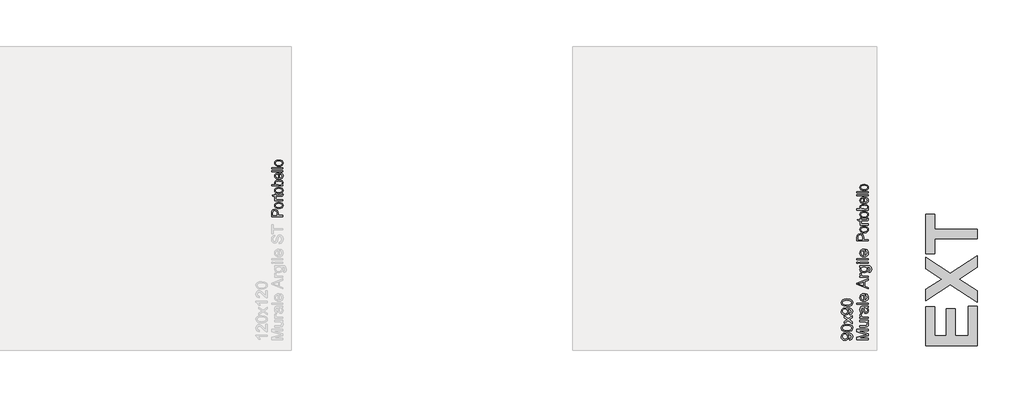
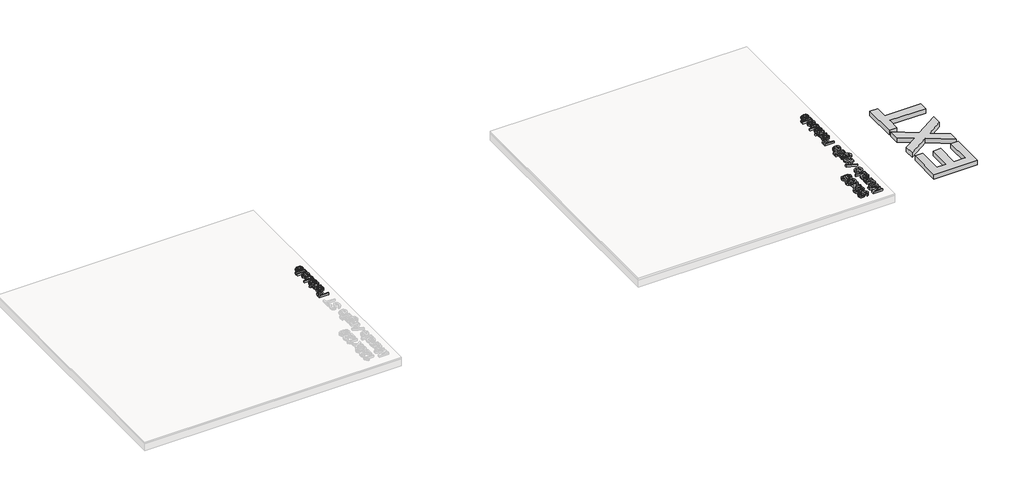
# One storey, part 10 of 21: 5 proxies.
"""IFC4 building model written with IfcOpenShell, lengths in millimetres."""

from ifc_helpers import new_model, si_unit, frame, origin, origin_with_axes, place, context, project, spatial, polyline, outline, extrude, element, save

model = new_model("IFC4")

# Units and contexts
model_context = context("Model", 3, world=origin())
ifc_project = project(units=[si_unit("LENGTHUNIT", "METRE", prefix="MILLI")], contexts=[model_context])

# Site, building, storey
site = spatial("IfcSite", under=ifc_project)
building = spatial("IfcBuilding", under=site)
storey = spatial("IfcBuildingStorey", under=building, Name="PORTOBELLO - SHOWROOM", Elevation=0.0)

# Proxies
placement = place(None, origin())
element("IfcBuildingElementProxy", 1, Name="10mm Arial", ObjectType="10mm Arial", at=placement, inside=storey, context=model_context, shape_type="SweptSolid", body=[
    extrude(outline(polyline([(28359.4625095, 10369.8696803), (28259.0061994, 10369.8696803), (28259.0061994, 10391.4030397), (28329.8112207, 10412.0044314), (28344.6000769, 10416.1737607), (28328.5849474, 10420.6619211), (28259.0061994, 10440.8709053), (28259.0061994, 10462.4778412), (28359.4625095, 10462.4778412), (28359.4625095, 10449.9208024), (28271.5632382, 10449.9208024), (28359.4625095, 10424.6840975), (28359.4625095, 10407.6879494), (28271.5632382, 10382.426719), (28359.4625095, 10382.426719), (28359.4625095, 10369.8696803)])), frame((0.0, 0.0, 18.0), z_axis=(0.0, 0.0, 1.0), x_axis=(1.0, 0.0, 0.0)), (0.0, 0.0, 1.0), 20.0),
    extrude(outline(polyline([(28359.4625095, 10529.9719246), (28346.7828434, 10529.9719246), (28357.4698154, 10520.1372126), (28361.0321394, 10507.3103937), (28358.5305418, 10495.5013816), (28352.2520224, 10487.3589268), (28343.0059216, 10483.6187932), (28331.3317996, 10482.8830292), (28285.6899068, 10482.8830292), (28285.6899068, 10495.4400679), (28325.4211622, 10495.4400679), (28338.2234557, 10496.2003574), (28345.7405111, 10501.1667643), (28348.4751006, 10510.5232297), (28345.6791974, 10521.0078666), (28338.0640401, 10527.9363109), (28324.0722616, 10529.9719246), (28285.6899068, 10529.9719246), (28285.6899068, 10542.5289633), (28359.4625095, 10542.5289633), (28359.4625095, 10529.9719246)])), frame((0.0, 0.0, 18.0), z_axis=(0.0, 0.0, 1.0), x_axis=(1.0, 0.0, 0.0)), (0.0, 0.0, 1.0), 20.0),
    extrude(outline(polyline([(28359.4625095, 10559.7948916), (28285.6899068, 10559.7948916), (28285.6899068, 10570.7823006), (28296.6037393, 10570.7823006), (28286.5482981, 10578.5813989), (28284.1202769, 10586.4295481), (28287.9953006, 10599.0356378), (28299.2524897, 10594.841783), (28296.6773157, 10586.0126152), (28299.1543878, 10578.9124927), (28306.0215184, 10574.3875441), (28320.6877472, 10572.3519304), (28359.4625095, 10572.3519304), (28359.4625095, 10559.7948916)])), frame((0.0, 0.0, 18.0), z_axis=(0.0, 0.0, 1.0), x_axis=(1.0, 0.0, 0.0)), (0.0, 0.0, 1.0), 20.0),
    extrude(outline(polyline([(28350.0447305, 10653.9726824), (28358.5550673, 10641.7957884), (28361.0321394, 10628.3435701), (28359.5422173, 10617.8497362), (28355.0724511, 10610.1088858), (28348.2850282, 10605.335617), (28339.8421365, 10603.7445273), (28329.9093226, 10606.148023), (28322.6988355, 10612.4633306), (28318.5785571, 10621.2557103), (28316.6900962, 10632.1204919), (28312.3736142, 10653.899106), (28309.577711, 10653.9726824), (28300.3070847, 10650.5145916), (28296.6773157, 10636.6331777), (28299.0930741, 10623.9289861), (28307.6647246, 10617.8711959), (28306.0950948, 10605.3141572), (28293.8323616, 10610.746548), (28286.6464, 10621.684906), (28284.1202769, 10638.2518585), (28286.3520944, 10653.4699103), (28291.9561634, 10662.0660863), (28300.478763, 10665.9165845), (28311.4661719, 10666.5297212), (28327.088894, 10666.5297212), (28348.9042963, 10667.1673833), (28359.4625095, 10669.6689809), (28359.4625095, 10657.1119421), (28350.0447305, 10653.9726824)]), holes=[polyline([(28324.9306529, 10653.9726824), (28328.7811511, 10633.7146472), (28330.8167648, 10622.9111793), (28334.1277028, 10618.0183487), (28338.9592197, 10616.3015661), (28345.7527738, 10620.0416997), (28348.4751006, 10631.0168459), (28345.470731, 10643.7210375), (28338.1989302, 10651.9125432), (28328.4868455, 10653.899106), (28324.9306529, 10653.9726824)])]), frame((0.0, 0.0, 18.0), z_axis=(0.0, 0.0, 1.0), x_axis=(1.0, 0.0, 0.0)), (0.0, 0.0, 1.0), 20.0),
    extrude(outline(polyline([(28359.4625095, 10683.7956495), (28259.0061994, 10683.7956495), (28259.0061994, 10696.3526882), (28359.4625095, 10696.3526882), (28359.4625095, 10683.7956495)])), frame((0.0, 0.0, 18.0), z_axis=(0.0, 0.0, 1.0), x_axis=(1.0, 0.0, 0.0)), (0.0, 0.0, 1.0), 20.0),
    extrude(outline(polyline([(28337.4876917, 10766.8388785), (28339.0573215, 10779.1506626), (28348.3340792, 10774.7146189), (28355.2686548, 10767.6359562), (28359.5912682, 10758.07409), (28361.0321394, 10746.1884359), (28358.5458702, 10731.454762), (28351.0870628, 10720.1178651), (28339.140095, 10712.8889839), (28323.1893448, 10710.4793569), (28306.7021001, 10712.9135094), (28294.3719219, 10720.215967), (28286.6831882, 10731.3995797), (28284.1202769, 10745.4771973), (28286.6770568, 10759.1164223), (28294.3473964, 10770.0149264), (28306.6530491, 10777.1610342), (28323.1157684, 10779.5430701), (28326.5002828, 10779.4694937), (28326.5002828, 10723.0363956), (28335.8996677, 10725.2099651), (28342.8097179, 10730.2591455), (28347.0587549, 10737.5462747), (28348.4751006, 10746.4336905), (28345.8508757, 10758.7454746), (28337.4876917, 10766.8388785)]), holes=[polyline([(28313.943244, 10723.0363956), (28313.943244, 10766.9860313), (28302.5634276, 10761.9583107), (28298.1488437, 10754.637459), (28296.6773157, 10745.4281464), (28301.3739425, 10729.9648399), (28306.8645813, 10725.0996005), (28313.943244, 10723.0363956)])]), frame((0.0, 0.0, 18.0), z_axis=(0.0, 0.0, 1.0), x_axis=(1.0, 0.0, 0.0)), (0.0, 0.0, 1.0), 20.0),
    extrude(outline(polyline([(28359.4625095, 10821.2363629), (28259.0061994, 10861.3355003), (28259.0061994, 10872.0286037), (28359.4625095, 10912.1032157), (28359.4625095, 10898.8349384), (28328.0699126, 10887.3570201), (28328.0699126, 10845.9580329), (28359.4625095, 10834.4801147), (28359.4625095, 10821.2363629)]), holes=[polyline([(28315.5128738, 10850.5688206), (28315.5128738, 10882.7707579), (28290.8157292, 10873.6963354), (28271.5632382, 10866.6575265), (28288.6574882, 10860.4035326), (28315.5128738, 10850.5688206)])]), frame((0.0, 0.0, 18.0), z_axis=(0.0, 0.0, 1.0), x_axis=(1.0, 0.0, 0.0)), (0.0, 0.0, 1.0), 20.0),
    extrude(outline(polyline([(28359.4625095, 10923.9490159), (28285.6899068, 10923.9490159), (28285.6899068, 10934.9364248), (28296.6037393, 10934.9364248), (28286.5482981, 10942.7355231), (28284.1202769, 10950.5836724), (28287.9953006, 10963.1897621), (28299.2524897, 10958.9959073), (28296.6773157, 10950.1667395), (28299.1543878, 10943.0666169), (28306.0215184, 10938.5416684), (28320.6877472, 10936.5060547), (28359.4625095, 10936.5060547), (28359.4625095, 10923.9490159)])), frame((0.0, 0.0, 18.0), z_axis=(0.0, 0.0, 1.0), x_axis=(1.0, 0.0, 0.0)), (0.0, 0.0, 1.0), 20.0),
    extrude(outline(polyline([(28365.7410289, 10967.8986516), (28367.3106588, 10980.4556904), (28373.9325347, 10984.5269178), (28376.7284378, 10996.7160746), (28373.5646527, 11009.5674189), (28364.6864339, 11015.6987855), (28350.0447305, 11016.5571768), (28357.1080648, 11007.7157462), (28359.4625095, 10996.9368038), (28356.7217887, 10983.9904232), (28348.4996261, 10974.3365865), (28336.4453594, 10968.330913), (28322.2083262, 10966.3290218), (28302.7473686, 10969.9220026), (28288.9763193, 10980.3208003), (28284.1202769, 10996.3236671), (28286.8671292, 11007.5256739), (28295.1076858, 11016.5571768), (28285.6899068, 11016.5571768), (28285.6899068, 11029.1142156), (28349.3825429, 11029.1142156), (28373.7731191, 11025.6806503), (28385.1161473, 11014.803606), (28389.2854766, 10996.4708199), (28387.8170143, 10984.7875009), (28383.4116274, 10975.5873853), (28376.0570532, 10969.685945), (28365.7410289, 10967.8986516)]), holes=[polyline([(28321.3499348, 10978.8860605), (28332.867707, 10980.2257641), (28340.7863669, 10984.2448749), (28345.3756948, 10990.2873367), (28346.9054708, 10997.6970932), (28345.3848919, 11005.0516674), (28340.8231551, 11011.1247861), (28333.0056627, 11015.1990791), (28321.7178168, 11016.5571768), (28310.8315755, 11015.1592253), (28302.9926233, 11010.9653705), (28298.2561426, 11004.8033471), (28296.6773157, 10997.5008895), (28298.2316171, 10990.3302563), (28302.8945214, 10984.3184513), (28310.6169776, 10980.2441582), (28321.3499348, 10978.8860605)])]), frame((0.0, 0.0, 18.0), z_axis=(0.0, 0.0, 1.0), x_axis=(1.0, 0.0, 0.0)), (0.0, 0.0, 1.0), 20.0),
    extrude(outline(polyline([(28271.5632382, 11047.9497738), (28259.0061994, 11047.9497738), (28259.0061994, 11060.5068125), (28271.5632382, 11060.5068125), (28271.5632382, 11047.9497738)])), frame((0.0, 0.0, 18.0), z_axis=(0.0, 0.0, 1.0), x_axis=(1.0, 0.0, 0.0)), (0.0, 0.0, 1.0), 20.0),
    extrude(outline(polyline([(28359.4625095, 11047.9497738), (28285.6899068, 11047.9497738), (28285.6899068, 11060.5068125), (28359.4625095, 11060.5068125), (28359.4625095, 11047.9497738)])), frame((0.0, 0.0, 18.0), z_axis=(0.0, 0.0, 1.0), x_axis=(1.0, 0.0, 0.0)), (0.0, 0.0, 1.0), 20.0),
    extrude(outline(polyline([(28359.4625095, 11079.3423707), (28259.0061994, 11079.3423707), (28259.0061994, 11091.8994095), (28359.4625095, 11091.8994095), (28359.4625095, 11079.3423707)])), frame((0.0, 0.0, 18.0), z_axis=(0.0, 0.0, 1.0), x_axis=(1.0, 0.0, 0.0)), (0.0, 0.0, 1.0), 20.0),
    extrude(outline(polyline([(28337.4876917, 11162.3855997), (28339.0573215, 11174.6973838), (28348.3340792, 11170.2613401), (28355.2686548, 11163.1826774), (28359.5912682, 11153.6208112), (28361.0321394, 11141.7351571), (28358.5458702, 11127.0014832), (28351.0870628, 11115.6645863), (28339.140095, 11108.4357051), (28323.1893448, 11106.0260781), (28306.7021001, 11108.4602306), (28294.3719219, 11115.7626882), (28286.6831882, 11126.9463009), (28284.1202769, 11141.0239185), (28286.6770568, 11154.6631435), (28294.3473964, 11165.5616476), (28306.6530491, 11172.7077554), (28323.1157684, 11175.0897913), (28326.5002828, 11175.0162149), (28326.5002828, 11118.5831168), (28335.8996677, 11120.7566863), (28342.8097179, 11125.8058667), (28347.0587549, 11133.0929959), (28348.4751006, 11141.9804117), (28345.8508757, 11154.2921958), (28337.4876917, 11162.3855997)]), holes=[polyline([(28313.943244, 11118.5831168), (28313.943244, 11162.5327525), (28302.5634276, 11157.5050319), (28298.1488437, 11150.1841802), (28296.6773157, 11140.9748676), (28301.3739425, 11125.5115611), (28306.8645813, 11120.6463217), (28313.943244, 11118.5831168)])]), frame((0.0, 0.0, 18.0), z_axis=(0.0, 0.0, 1.0), x_axis=(1.0, 0.0, 0.0)), (0.0, 0.0, 1.0), 20.0),
])
element("IfcBuildingElementProxy", 2, Name="10mm Arial", ObjectType="10mm Arial", at=placement, inside=storey, context=model_context, shape_type="SweptSolid", body=[
    extrude(outline(polyline([(28194.348432, 10366.7304206), (28192.7788021, 10379.2874593), (28204.7594925, 10384.9283166), (28208.4751006, 10395.6214199), (28206.0838676, 10405.7872257), (28199.6949837, 10412.6788818), (28188.7811511, 10416.7868974), (28174.2130241, 10418.6017819), (28171.7604775, 10418.5282055), (28181.2763584, 10408.485027), (28184.9306529, 10394.7139777), (28182.6988355, 10383.2636506), (28176.0033832, 10373.7324412), (28165.6597677, 10367.3037033), (28152.4834609, 10365.1607907), (28138.8718271, 10367.4079366), (28128.2032493, 10374.1493741), (28121.3054619, 10384.2753261), (28119.0061994, 10396.676015), (28124.2546492, 10414.5673427), (28139.2151837, 10426.8791268), (28167.3213681, 10431.0852443), (28197.8187855, 10426.8913895), (28207.8098473, 10421.6766622), (28215.0969765, 10414.4201899), (28219.5483487, 10405.4346721), (28221.0321394, 10395.0328087), (28219.2816342, 10384.2967858), (28214.0301187, 10375.7312667), (28205.6086867, 10369.7409216), (28194.348432, 10366.7304206)]), holes=[polyline([(28152.1891553, 10418.5282055), (28143.6788185, 10417.1731735), (28137.130519, 10413.1080774), (28132.9550584, 10406.7989012), (28131.5632382, 10398.7116287), (28133.0623573, 10390.3239192), (28137.5597147, 10383.6039414), (28144.4421737, 10379.1893575), (28153.0965976, 10377.7178295), (28160.855842, 10379.1096497), (28167.0147998, 10383.2851103), (28171.0339106, 10389.8395412), (28172.3736142, 10398.3682722), (28167.0147998, 10412.85056), (28160.6289815, 10417.1087941), (28152.1891553, 10418.5282055)])]), frame((0.0, 0.0, 18.0), z_axis=(0.0, 0.0, 1.0), x_axis=(1.0, 0.0, 0.0)), (0.0, 0.0, 1.0), 20.0),
    extrude(outline(polyline([(28170.0436948, 10442.0726532), (28141.1404328, 10445.7637359), (28124.4753784, 10456.7266193), (28119.0061994, 10475.0348799), (28122.2435609, 10489.7011088), (28131.5755009, 10499.8301264), (28146.4379335, 10505.7162383), (28170.0436948, 10507.9971067), (28198.8243296, 10504.3428122), (28215.5261722, 10493.416717), (28219.6556476, 10485.1853573), (28221.0321394, 10475.0348799), (28218.6409064, 10461.9873319), (28211.4672075, 10452.0790434), (28194.4771907, 10444.5742507), (28170.0436948, 10442.0726532)]), holes=[polyline([(28170.0191694, 10454.6296919), (28189.7713668, 10456.1012199), (28201.2032998, 10460.5158039), (28206.6571504, 10467.0886289), (28208.4751006, 10475.0348799), (28206.6510191, 10482.981131), (28201.1787744, 10489.553956), (28189.74071, 10493.96854), (28170.0191694, 10495.4400679), (28150.711496, 10494.0175909), (28139.1906582, 10489.7501598), (28133.4700932, 10483.1895975), (28131.5632382, 10474.8877271), (28133.2432326, 10467.0273152), (28138.2832159, 10460.7120076), (28150.5214236, 10456.1502709), (28170.0191694, 10454.6296919)])]), frame((0.0, 0.0, 18.0), z_axis=(0.0, 0.0, 1.0), x_axis=(1.0, 0.0, 0.0)), (0.0, 0.0, 1.0), 20.0),
    extrude(outline(polyline([(28219.4625095, 10514.2756261), (28182.355479, 10541.1064863), (28145.6899068, 10515.8452559), (28145.6899068, 10530.9038923), (28163.372768, 10543.0930491), (28171.6869011, 10548.8074827), (28164.8688214, 10553.7616269), (28145.6899068, 10567.6430409), (28145.6899068, 10582.7507281), (28182.3800044, 10556.2141735), (28219.4625095, 10581.7697095), (28219.4625095, 10566.6865477), (28197.1443352, 10551.2845548), (28193.0485823, 10548.4886516), (28219.4625095, 10529.3833134), (28219.4625095, 10514.2756261)])), frame((0.0, 0.0, 18.0), z_axis=(0.0, 0.0, 1.0), x_axis=(1.0, 0.0, 0.0)), (0.0, 0.0, 1.0), 20.0),
    extrude(outline(polyline([(28194.348432, 10591.1874886), (28192.7788021, 10603.7445273), (28204.7594925, 10609.3853846), (28208.4751006, 10620.0784879), (28206.0838676, 10630.2442937), (28199.6949837, 10637.1359498), (28188.7811511, 10641.2439654), (28174.2130241, 10643.0588499), (28171.7604775, 10642.9852735), (28181.2763584, 10632.942095), (28184.9306529, 10619.1710457), (28182.6988355, 10607.7207186), (28176.0033832, 10598.1895092), (28165.6597677, 10591.7607713), (28152.4834609, 10589.6178587), (28138.8718271, 10591.8650046), (28128.2032493, 10598.6064421), (28121.3054619, 10608.732394), (28119.0061994, 10621.133083), (28124.2546492, 10639.0244107), (28139.2151837, 10651.3361948), (28167.3213681, 10655.5423122), (28197.8187855, 10651.3484575), (28207.8098473, 10646.1337302), (28215.0969765, 10638.8772579), (28219.5483487, 10629.8917401), (28221.0321394, 10619.4898767), (28219.2816342, 10608.7538538), (28214.0301187, 10600.1883347), (28205.6086867, 10594.1979896), (28194.348432, 10591.1874886)]), holes=[polyline([(28152.1891553, 10642.9852735), (28143.6788185, 10641.6302415), (28137.130519, 10637.5651454), (28132.9550584, 10631.2559692), (28131.5632382, 10623.1686967), (28133.0623573, 10614.7809872), (28137.5597147, 10608.0610094), (28144.4421737, 10603.6464255), (28153.0965976, 10602.1748975), (28160.855842, 10603.5667177), (28167.0147998, 10607.7421783), (28171.0339106, 10614.2966092), (28172.3736142, 10622.8253401), (28167.0147998, 10637.307628), (28160.6289815, 10641.5658621), (28152.1891553, 10642.9852735)])]), frame((0.0, 0.0, 18.0), z_axis=(0.0, 0.0, 1.0), x_axis=(1.0, 0.0, 0.0)), (0.0, 0.0, 1.0), 20.0),
    extrude(outline(polyline([(28170.0436948, 10666.5297212), (28141.1404328, 10670.2208039), (28124.4753784, 10681.1836873), (28119.0061994, 10699.4919479), (28122.2435609, 10714.1581768), (28131.5755009, 10724.2871944), (28146.4379335, 10730.1733063), (28170.0436948, 10732.4541747), (28198.8243296, 10728.7998802), (28215.5261722, 10717.873785), (28219.6556476, 10709.6424253), (28221.0321394, 10699.4919479), (28218.6409064, 10686.4443998), (28211.4672075, 10676.5361114), (28194.4771907, 10669.0313187), (28170.0436948, 10666.5297212)]), holes=[polyline([(28170.0191694, 10679.0867599), (28189.7713668, 10680.5582879), (28201.2032998, 10684.9728719), (28206.6571504, 10691.5456968), (28208.4751006, 10699.4919479), (28206.6510191, 10707.438199), (28201.1787744, 10714.011024), (28189.74071, 10718.425608), (28170.0191694, 10719.8971359), (28150.711496, 10718.4746589), (28139.1906582, 10714.2072277), (28133.4700932, 10707.6466655), (28131.5632382, 10699.3447951), (28133.2432326, 10691.4843832), (28138.2832159, 10685.1690756), (28150.5214236, 10680.6073389), (28170.0191694, 10679.0867599)])]), frame((0.0, 0.0, 18.0), z_axis=(0.0, 0.0, 1.0), x_axis=(1.0, 0.0, 0.0)), (0.0, 0.0, 1.0), 20.0),
])
element("IfcBuildingElementProxy", 3, Name="10mm Arial Narrow", ObjectType="10mm Arial Narrow", at=placement, inside=storey, context=model_context, shape_type="SweptSolid", body=[
    extrude(outline(polyline([(28359.4625095, 11249.588476), (28258.7439058, 11249.588476), (28258.7439058, 11280.8853607), (28260.6222265, 11297.1810622), (28270.1026697, 11308.6540483), (28287.1217785, 11312.9437267), (28299.197604, 11311.1574183), (28308.8239978, 11305.7984931), (28315.1252562, 11296.0547043), (28317.2256757, 11281.1138051), (28317.2256757, 11259.3354376), (28359.4625095, 11259.3354376), (28359.4625095, 11249.588476)]), holes=[polyline([(28305.8542204, 11259.3354376), (28305.8542204, 11282.3067926), (28301.3234062, 11298.170988), (28287.6548155, 11303.1967651), (28277.4890391, 11300.7219506), (28271.6890892, 11294.7443218), (28270.115361, 11282.0783482), (28270.115361, 11259.3354376), (28305.8542204, 11259.3354376)])]), frame((0.0, 0.0, 18.0), z_axis=(0.0, 0.0, 1.0), x_axis=(1.0, 0.0, 0.0)), (0.0, 0.0, 1.0), 20.0),
    extrude(outline(polyline([(28322.9114033, 11321.0661948), (28306.3206278, 11323.0206637), (28294.368543, 11328.8840703), (28287.1439884, 11337.742637), (28284.7358035, 11348.6825861), (28287.1439884, 11359.4956217), (28294.368543, 11368.3795711), (28306.1302574, 11374.3191259), (28322.149922, 11376.2989775), (28339.3118085, 11374.3540271), (28351.4542637, 11368.5191761), (28358.6788183, 11359.6701279), (28361.0870031, 11348.6825861), (28358.6724726, 11337.821958), (28351.428881, 11328.9475271), (28339.4704505, 11323.0365278), (28322.9114033, 11321.0661948)]), holes=[polyline([(28322.8860206, 11330.8131564), (28335.437772, 11332.1171933), (28344.3090301, 11336.0293039), (28349.5822886, 11341.8705006), (28351.3400415, 11348.961796), (28349.5664244, 11355.6818691), (28344.2455733, 11361.3739424), (28335.358451, 11365.2574975), (28322.8860206, 11366.5520158), (28310.3723433, 11365.247979), (28301.5137766, 11361.3358684), (28296.240518, 11355.4946716), (28294.4827652, 11348.4033763), (28296.2500365, 11341.6357105), (28301.5518506, 11335.9531557), (28310.4199359, 11332.0981563), (28322.8860206, 11330.8131564)])]), frame((0.0, 0.0, 18.0), z_axis=(0.0, 0.0, 1.0), x_axis=(1.0, 0.0, 0.0)), (0.0, 0.0, 1.0), 20.0),
    extrude(outline(polyline([(28351.3400415, 11447.7766963), (28361.0870031, 11449.4011899), (28361.0870031, 11442.0402032), (28358.9675466, 11433.7654389), (28353.1675968, 11429.4503777), (28338.5217716, 11428.282773), (28296.1072588, 11428.282773), (28296.1072588, 11420.1603049), (28292.8582716, 11420.1603049), (28297.7317524, 11418.5358113), (28296.1072588, 11410.9717629), (28298.429777, 11404.8926033), (28304.9150601, 11401.0217396), (28320.3223666, 11399.041888), (28359.4625095, 11399.041888), (28359.4625095, 11389.2949264), (28286.3602971, 11389.2949264), (28286.3602971, 11399.041888), (28296.0564934, 11399.041888), (28286.9694822, 11405.2860353), (28284.7358035, 11411.6824789), (28286.3602971, 11420.1603049), (28286.3602971, 11428.282773), (28270.115361, 11428.282773), (28261.992893, 11438.0297346), (28286.3602971, 11438.0297346), (28286.3602971, 11447.7766963), (28296.1072588, 11447.7766963), (28296.1072588, 11438.0297346), (28340.7554503, 11438.0297346), (28348.7510048, 11438.8927468), (28351.3400415, 11443.5124006), (28351.3400415, 11447.7766963)])), frame((0.0, 0.0, 18.0), z_axis=(0.0, 0.0, 1.0), x_axis=(1.0, 0.0, 0.0)), (0.0, 0.0, 1.0), 20.0),
    extrude(outline(polyline([(28322.9114033, 11454.2746707), (28306.3206278, 11456.2291396), (28294.368543, 11462.0925462), (28287.1439884, 11470.9511129), (28284.7358035, 11481.8910621), (28287.1439884, 11492.7040976), (28294.368543, 11501.5880471), (28306.1302574, 11507.5276018), (28322.149922, 11509.5074534), (28339.3118085, 11507.5625031), (28351.4542637, 11501.727652), (28358.6788183, 11492.8786038), (28361.0870031, 11481.8910621), (28358.6724726, 11471.0304339), (28351.428881, 11462.156003), (28339.4704505, 11456.2450038), (28322.9114033, 11454.2746707)]), holes=[polyline([(28322.8860206, 11464.0216324), (28335.437772, 11465.3256692), (28344.3090301, 11469.2377798), (28349.5822886, 11475.0789766), (28351.3400415, 11482.1702719), (28349.5664244, 11488.8903451), (28344.2455733, 11494.5824184), (28335.358451, 11498.4659734), (28322.8860206, 11499.7604918), (28310.3723433, 11498.4564549), (28301.5137766, 11494.5443443), (28296.240518, 11488.7031476), (28294.4827652, 11481.6118522), (28296.2500365, 11474.8441865), (28301.5518506, 11469.1616317), (28310.4199359, 11465.3066322), (28322.8860206, 11464.0216324)])]), frame((0.0, 0.0, 18.0), z_axis=(0.0, 0.0, 1.0), x_axis=(1.0, 0.0, 0.0)), (0.0, 0.0, 1.0), 20.0),
    extrude(outline(polyline([(28359.4625095, 11532.2503639), (28359.4625095, 11522.5034023), (28258.7439058, 11522.5034023), (28258.7439058, 11532.2503639), (28294.1527899, 11532.2503639), (28287.0710131, 11539.6494247), (28284.7358035, 11548.850658), (28288.9366425, 11561.7323847), (28301.6660729, 11571.0097661), (28322.3529837, 11574.4871978), (28338.8073271, 11572.5549388), (28351.0100662, 11566.7581618), (28358.5677689, 11558.3850394), (28361.0870031, 11548.7237444), (28358.4725837, 11539.3829062), (28350.7054737, 11532.2503639), (28359.4625095, 11532.2503639)]), holes=[polyline([(28322.3529837, 11532.2503639), (28339.6005369, 11534.3317464), (28348.33219, 11540.2205357), (28351.3400415, 11548.672979), (28349.5505602, 11554.6157066), (28344.1821165, 11559.8540639), (28322.7591071, 11564.7402361), (28301.3234062, 11560.0317429), (28296.1929254, 11554.7870399), (28294.4827652, 11548.4699173), (28296.2722464, 11542.4922885), (28301.6406901, 11537.1999929), (28322.3529837, 11532.2503639)])]), frame((0.0, 0.0, 18.0), z_axis=(0.0, 0.0, 1.0), x_axis=(1.0, 0.0, 0.0)), (0.0, 0.0, 1.0), 20.0),
    extrude(outline(polyline([(28336.719599, 11626.4709933), (28338.3440926, 11636.2179549), (28348.2306592, 11632.5184245), (28355.3505101, 11626.6994377), (28359.6528799, 11618.9957844), (28361.0870031, 11609.6422548), (28358.6724726, 11598.0487008), (28351.428881, 11588.9045785), (28339.6227468, 11582.9650238), (28323.5205884, 11580.9851722), (28306.8536647, 11582.9745423), (28294.6731355, 11588.9426526), (28287.2201365, 11597.9566884), (28284.7358035, 11609.0838351), (28287.1344699, 11619.7667843), (28294.3304689, 11628.5143016), (28306.0699735, 11634.3491527), (28322.0991565, 11636.294103), (28325.3481437, 11636.2179549), (28325.3481437, 11590.7321339), (28344.7913016, 11596.7351454), (28349.7028565, 11602.6651816), (28351.3400415, 11609.7691683), (28347.6849309, 11619.9476361), (28336.719599, 11626.4709933)]), holes=[polyline([(28315.6011821, 11591.3920844), (28315.6011821, 11626.4709933), (28301.3360976, 11622.2066975), (28296.1960983, 11616.381365), (28294.4827652, 11609.1599832), (28300.1938755, 11596.9508985), (28315.6011821, 11591.3920844)])]), frame((0.0, 0.0, 18.0), z_axis=(0.0, 0.0, 1.0), x_axis=(1.0, 0.0, 0.0)), (0.0, 0.0, 1.0), 20.0),
    extrude(outline(polyline([(28359.4625095, 11649.2139038), (28258.7439058, 11649.2139038), (28258.7439058, 11658.9608654), (28359.4625095, 11658.9608654), (28359.4625095, 11649.2139038)])), frame((0.0, 0.0, 18.0), z_axis=(0.0, 0.0, 1.0), x_axis=(1.0, 0.0, 0.0)), (0.0, 0.0, 1.0), 20.0),
    extrude(outline(polyline([(28359.4625095, 11675.2058015), (28258.7439058, 11675.2058015), (28258.7439058, 11684.9527632), (28359.4625095, 11684.9527632), (28359.4625095, 11675.2058015)])), frame((0.0, 0.0, 18.0), z_axis=(0.0, 0.0, 1.0), x_axis=(1.0, 0.0, 0.0)), (0.0, 0.0, 1.0), 20.0),
    extrude(outline(polyline([(28322.9114033, 11696.3242184), (28306.3206278, 11698.2786873), (28294.368543, 11704.1420939), (28287.1439884, 11713.0006606), (28284.7358035, 11723.9406098), (28287.1439884, 11734.7536454), (28294.368543, 11743.6375948), (28306.1302574, 11749.5771496), (28322.149922, 11751.5570011), (28339.3118085, 11749.6120508), (28351.4542637, 11743.7771997), (28358.6788183, 11734.9281515), (28361.0870031, 11723.9406098), (28358.6724726, 11713.0799816), (28351.428881, 11704.2055507), (28339.4704505, 11698.2945515), (28322.9114033, 11696.3242184)]), holes=[polyline([(28322.8860206, 11706.0711801), (28335.437772, 11707.375217), (28344.3090301, 11711.2873275), (28349.5822886, 11717.1285243), (28351.3400415, 11724.2198196), (28349.5664244, 11730.9398928), (28344.2455733, 11736.6319661), (28335.358451, 11740.5155211), (28322.8860206, 11741.8100395), (28310.3723433, 11740.5060026), (28301.5137766, 11736.593892), (28296.240518, 11730.7526953), (28294.4827652, 11723.6614), (28296.2500365, 11716.8937342), (28301.5518506, 11711.2111794), (28310.4199359, 11707.3561799), (28322.8860206, 11706.0711801)])]), frame((0.0, 0.0, 18.0), z_axis=(0.0, 0.0, 1.0), x_axis=(1.0, 0.0, 0.0)), (0.0, 0.0, 1.0), 20.0),
])
element("IfcBuildingElementProxy", 4, Name="10mm Arial Narrow", ObjectType="10mm Arial Narrow", at=placement, inside=storey, context=model_context, shape_type="SweptSolid", body=[
    extrude(outline(polyline([(23159.4374935, 11464.588476), (23058.7188897, 11464.588476), (23058.7188897, 11495.8853607), (23060.5972104, 11512.1810622), (23070.0776536, 11523.6540483), (23087.0967624, 11527.9437267), (23099.172588, 11526.1574183), (23108.7989817, 11520.7984931), (23115.1002401, 11511.0547043), (23117.2006596, 11496.1138051), (23117.2006596, 11474.3354376), (23159.4374935, 11474.3354376), (23159.4374935, 11464.588476)]), holes=[polyline([(23105.8292044, 11474.3354376), (23105.8292044, 11497.3067926), (23101.2983902, 11513.170988), (23087.6297994, 11518.1967651), (23077.464023, 11515.7219506), (23071.6640731, 11509.7443218), (23070.090345, 11497.0783482), (23070.090345, 11474.3354376), (23105.8292044, 11474.3354376)])]), frame((0.0, 0.0, 17.0), z_axis=(0.0, 0.0, 1.0), x_axis=(1.0, 0.0, 0.0)), (0.0, 0.0, 1.0), 20.0),
    extrude(outline(polyline([(23122.8863873, 11536.0661948), (23106.2956117, 11538.0206637), (23094.3435269, 11543.8840703), (23087.1189723, 11552.742637), (23084.7107874, 11563.6825861), (23087.1189723, 11574.4956217), (23094.3435269, 11583.3795711), (23106.1052414, 11589.3191259), (23122.1249059, 11591.2989775), (23139.2867925, 11589.3540271), (23151.4292476, 11583.5191761), (23158.6538022, 11574.6701279), (23161.0619871, 11563.6825861), (23158.6474565, 11552.821958), (23151.4038649, 11543.9475271), (23139.4454344, 11538.0365278), (23122.8863873, 11536.0661948)]), holes=[polyline([(23122.8610045, 11545.8131564), (23135.4127559, 11547.1171933), (23144.284014, 11551.0293039), (23149.5572726, 11556.8705006), (23151.3150254, 11563.961796), (23149.5414084, 11570.6818691), (23144.2205572, 11576.3739424), (23135.333435, 11580.2574975), (23122.8610045, 11581.5520158), (23110.3473272, 11580.247979), (23101.4887605, 11576.3358684), (23096.2155019, 11570.4946716), (23094.4577491, 11563.4033763), (23096.2250205, 11556.6357105), (23101.5268346, 11550.9531557), (23110.3949198, 11547.0981563), (23122.8610045, 11545.8131564)])]), frame((0.0, 0.0, 17.0), z_axis=(0.0, 0.0, 1.0), x_axis=(1.0, 0.0, 0.0)), (0.0, 0.0, 1.0), 20.0),
    extrude(outline(polyline([(23151.3150254, 11662.7766963), (23161.0619871, 11664.4011899), (23161.0619871, 11657.0402032), (23158.9425306, 11648.7654389), (23153.1425807, 11644.4503777), (23138.4967555, 11643.282773), (23096.0822427, 11643.282773), (23096.0822427, 11635.1603049), (23092.8332555, 11635.1603049), (23097.7067363, 11633.5358113), (23096.0822427, 11625.9717629), (23098.4047609, 11619.8926033), (23104.890044, 11616.0217396), (23120.2973506, 11614.041888), (23159.4374935, 11614.041888), (23159.4374935, 11604.2949264), (23086.335281, 11604.2949264), (23086.335281, 11614.041888), (23096.0314773, 11614.041888), (23086.9444662, 11620.2860353), (23084.7107874, 11626.6824789), (23086.335281, 11635.1603049), (23086.335281, 11643.282773), (23070.090345, 11643.282773), (23061.9678769, 11653.0297346), (23086.335281, 11653.0297346), (23086.335281, 11662.7766963), (23096.0822427, 11662.7766963), (23096.0822427, 11653.0297346), (23140.7304342, 11653.0297346), (23148.7259887, 11653.8927468), (23151.3150254, 11658.5124006), (23151.3150254, 11662.7766963)])), frame((0.0, 0.0, 17.0), z_axis=(0.0, 0.0, 1.0), x_axis=(1.0, 0.0, 0.0)), (0.0, 0.0, 1.0), 20.0),
    extrude(outline(polyline([(23122.8863873, 11669.2746707), (23106.2956117, 11671.2291396), (23094.3435269, 11677.0925462), (23087.1189723, 11685.9511129), (23084.7107874, 11696.8910621), (23087.1189723, 11707.7040976), (23094.3435269, 11716.5880471), (23106.1052414, 11722.5276018), (23122.1249059, 11724.5074534), (23139.2867925, 11722.5625031), (23151.4292476, 11716.727652), (23158.6538022, 11707.8786038), (23161.0619871, 11696.8910621), (23158.6474565, 11686.0304339), (23151.4038649, 11677.156003), (23139.4454344, 11671.2450038), (23122.8863873, 11669.2746707)]), holes=[polyline([(23122.8610045, 11679.0216324), (23135.4127559, 11680.3256692), (23144.284014, 11684.2377798), (23149.5572726, 11690.0789766), (23151.3150254, 11697.1702719), (23149.5414084, 11703.8903451), (23144.2205572, 11709.5824184), (23135.333435, 11713.4659734), (23122.8610045, 11714.7604918), (23110.3473272, 11713.4564549), (23101.4887605, 11709.5443443), (23096.2155019, 11703.7031476), (23094.4577491, 11696.6118522), (23096.2250205, 11689.8441865), (23101.5268346, 11684.1616317), (23110.3949198, 11680.3066322), (23122.8610045, 11679.0216324)])]), frame((0.0, 0.0, 17.0), z_axis=(0.0, 0.0, 1.0), x_axis=(1.0, 0.0, 0.0)), (0.0, 0.0, 1.0), 20.0),
    extrude(outline(polyline([(23159.4374935, 11747.2503639), (23159.4374935, 11737.5034023), (23058.7188897, 11737.5034023), (23058.7188897, 11747.2503639), (23094.1277738, 11747.2503639), (23087.045997, 11754.6494247), (23084.7107874, 11763.850658), (23088.9116264, 11776.7323847), (23101.6410568, 11786.0097661), (23122.3279676, 11789.4871978), (23138.782311, 11787.5549388), (23150.9850501, 11781.7581618), (23158.5427528, 11773.3850394), (23161.0619871, 11763.7237444), (23158.4475677, 11754.3829062), (23150.6804576, 11747.2503639), (23159.4374935, 11747.2503639)]), holes=[polyline([(23122.3279676, 11747.2503639), (23139.5755208, 11749.3317464), (23148.307174, 11755.2205357), (23151.3150254, 11763.672979), (23149.5255442, 11769.6157066), (23144.1571004, 11774.8540639), (23122.734091, 11779.7402361), (23101.2983902, 11775.0317429), (23096.1679094, 11769.7870399), (23094.4577491, 11763.4699173), (23096.2472303, 11757.4922885), (23101.6156741, 11752.1999929), (23122.3279676, 11747.2503639)])]), frame((0.0, 0.0, 17.0), z_axis=(0.0, 0.0, 1.0), x_axis=(1.0, 0.0, 0.0)), (0.0, 0.0, 1.0), 20.0),
    extrude(outline(polyline([(23136.6945829, 11841.4709933), (23138.3190765, 11851.2179549), (23148.2056431, 11847.5184245), (23155.325494, 11841.6994377), (23159.6278638, 11833.9957844), (23161.0619871, 11824.6422548), (23158.6474565, 11813.0487008), (23151.4038649, 11803.9045785), (23139.5977307, 11797.9650238), (23123.4955724, 11795.9851722), (23106.8286487, 11797.9745423), (23094.6481194, 11803.9426526), (23087.1951204, 11812.9566884), (23084.7107874, 11824.0838351), (23087.1094538, 11834.7667843), (23094.3054528, 11843.5143016), (23106.0449574, 11849.3491527), (23122.0741404, 11851.294103), (23125.3231277, 11851.2179549), (23125.3231277, 11805.7321339), (23144.7662855, 11811.7351454), (23149.6778404, 11817.6651816), (23151.3150254, 11824.7691683), (23147.6599148, 11834.9476361), (23136.6945829, 11841.4709933)]), holes=[polyline([(23115.576166, 11806.3920844), (23115.576166, 11841.4709933), (23101.3110815, 11837.2066975), (23096.1710822, 11831.381365), (23094.4577491, 11824.1599832), (23100.1688594, 11811.9508985), (23115.576166, 11806.3920844)])]), frame((0.0, 0.0, 17.0), z_axis=(0.0, 0.0, 1.0), x_axis=(1.0, 0.0, 0.0)), (0.0, 0.0, 1.0), 20.0),
    extrude(outline(polyline([(23159.4374935, 11864.2139038), (23058.7188897, 11864.2139038), (23058.7188897, 11873.9608654), (23159.4374935, 11873.9608654), (23159.4374935, 11864.2139038)])), frame((0.0, 0.0, 17.0), z_axis=(0.0, 0.0, 1.0), x_axis=(1.0, 0.0, 0.0)), (0.0, 0.0, 1.0), 20.0),
    extrude(outline(polyline([(23159.4374935, 11890.2058015), (23058.7188897, 11890.2058015), (23058.7188897, 11899.9527632), (23159.4374935, 11899.9527632), (23159.4374935, 11890.2058015)])), frame((0.0, 0.0, 17.0), z_axis=(0.0, 0.0, 1.0), x_axis=(1.0, 0.0, 0.0)), (0.0, 0.0, 1.0), 20.0),
    extrude(outline(polyline([(23122.8863873, 11911.3242184), (23106.2956117, 11913.2786873), (23094.3435269, 11919.1420939), (23087.1189723, 11928.0006606), (23084.7107874, 11938.9406098), (23087.1189723, 11949.7536454), (23094.3435269, 11958.6375948), (23106.1052414, 11964.5771496), (23122.1249059, 11966.5570011), (23139.2867925, 11964.6120508), (23151.4292476, 11958.7771997), (23158.6538022, 11949.9281515), (23161.0619871, 11938.9406098), (23158.6474565, 11928.0799816), (23151.4038649, 11919.2055507), (23139.4454344, 11913.2945515), (23122.8863873, 11911.3242184)]), holes=[polyline([(23122.8610045, 11921.0711801), (23135.4127559, 11922.375217), (23144.284014, 11926.2873275), (23149.5572726, 11932.1285243), (23151.3150254, 11939.2198196), (23149.5414084, 11945.9398928), (23144.2205572, 11951.6319661), (23135.333435, 11955.5155211), (23122.8610045, 11956.8100395), (23110.3473272, 11955.5060026), (23101.4887605, 11951.593892), (23096.2155019, 11945.7526953), (23094.4577491, 11938.6614), (23096.2250205, 11931.8937342), (23101.5268346, 11926.2111794), (23110.3949198, 11922.3561799), (23122.8610045, 11921.0711801)])]), frame((0.0, 0.0, 17.0), z_axis=(0.0, 0.0, 1.0), x_axis=(1.0, 0.0, 0.0)), (0.0, 0.0, 1.0), 20.0),
])
element("IfcBuildingElementProxy", 5, Name="450mm Arial", ObjectType="450mm Arial", at=placement, inside=storey, context=model_context, shape_type="SweptSolid", body=[
    extrude(outline(polyline([(29329.6729671, 10319.1171638), (28870.5562371, 10319.1171638), (28870.5562371, 10661.6328195), (28950.7194757, 10661.6328195), (28950.7194757, 10406.5679695), (29052.7454157, 10406.5679695), (29052.7454157, 10647.0576852), (29132.9086542, 10647.0576852), (29132.9086542, 10406.5679695), (29249.5097285, 10406.5679695), (29249.5097285, 10668.9203867), (29329.6729671, 10668.9203867), (29329.6729671, 10319.1171638)])), origin_with_axes(), (0.0, 0.0, 1.0), 50.0),
    extrude(outline(polyline([(29329.6729671, 10701.7144388), (29088.8416467, 10858.2832641), (28870.5562371, 10716.2895731), (28870.5562371, 10818.5432496), (29010.2725634, 10909.4101024), (28870.5562371, 11000.163087), (28870.5562371, 11102.5306317), (29088.9555149, 10960.5369406), (29329.6729671, 11117.1057659), (29329.6729671, 11014.8520895), (29167.6384664, 10909.4101024), (29329.6729671, 10804.0819835), (29329.6729671, 10701.7144388)])), origin_with_axes(), (0.0, 0.0, 1.0), 50.0),
    extrude(outline(polyline([(29329.6729671, 11266.5008924), (28950.7194757, 11266.5008924), (28950.7194757, 11135.3246838), (28870.5562371, 11135.3246838), (28870.5562371, 11485.1279066), (28950.7194757, 11485.1279066), (28950.7194757, 11353.9516981), (29329.6729671, 11353.9516981), (29329.6729671, 11266.5008924)])), origin_with_axes(), (0.0, 0.0, 1.0), 50.0),
])

save(model, "model.ifc")
